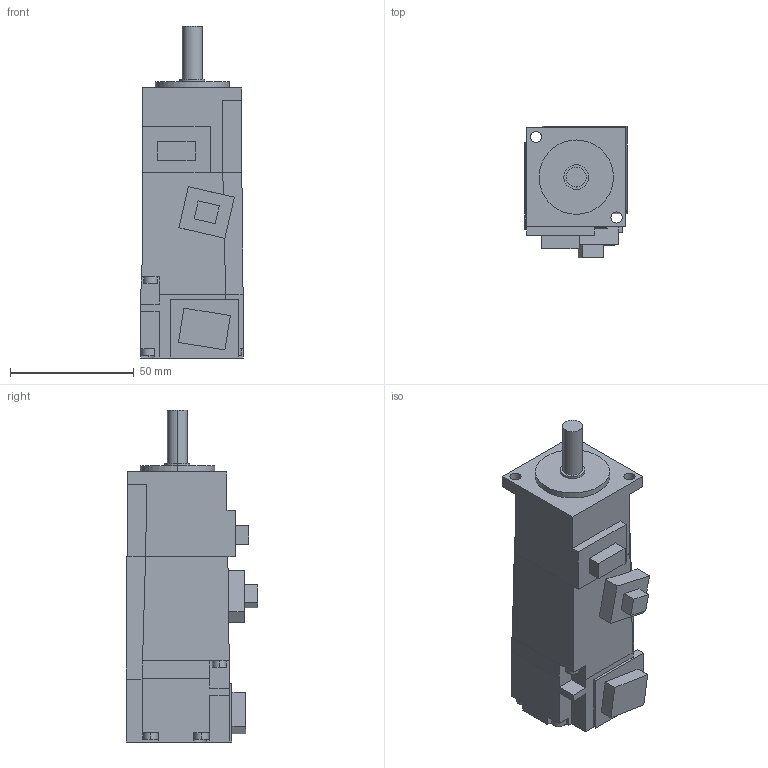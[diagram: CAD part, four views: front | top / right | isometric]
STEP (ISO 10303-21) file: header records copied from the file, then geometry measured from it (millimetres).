
FILE_DESCRIPTION((''),'2;1');
FILE_NAME('HF-KN053B_B_IF0001','2010-04-03T',('DD65885'),(''),'PRO/ENGINEER BY PARAMETRIC TECHNOLOGY CORPORATION, 2007390','PRO/ENGINEER BY PARAMETRIC TECHNOLOGY CORPORATION, 2007390','');
FILE_SCHEMA(('CONFIG_CONTROL_DESIGN'));
Length unit declared in the file: millimetre
Products named in the file (1): HF-KN053B_B_IF0001
Bounding box: 41.2 x 53.2 x 133.9 mm (x, y, z)
Volume: 176545.8 mm3; surface area: 24519.3 mm2
Topology: 1 solids, 1 shells, 117 faces, 298 edges, 194 vertices
Faces by surface type: plane 94, cylinder 23
Entity records: 3532 total; most frequent: CARTESIAN_POINT 609, ORIENTED_EDGE 596, DIRECTION 578, EDGE_CURVE 298, VECTOR 252, LINE 252, VERTEX_POINT 194, AXIS2_PLACEMENT_3D 163
